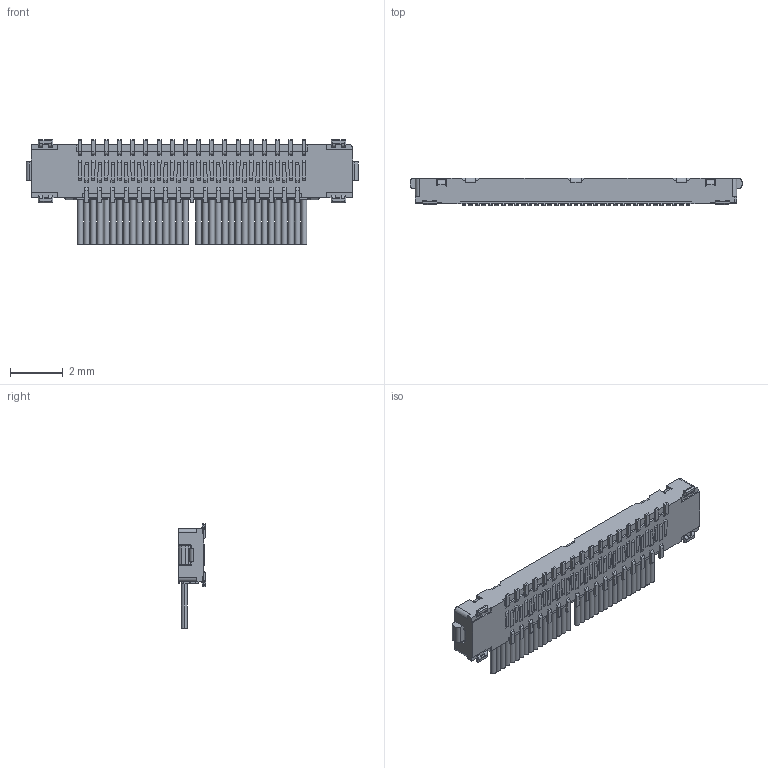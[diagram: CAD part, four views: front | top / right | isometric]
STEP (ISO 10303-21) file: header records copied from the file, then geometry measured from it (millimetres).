
FILE_DESCRIPTION (( 'STEP AP203' ), '1' );
FILE_NAME ('20531-034T-02-1+20533-034E CABLINE-UX II MATING ASSEMBLY_STEP_R4R1R7_ALL.STEP', '2025-12-25T04:58:25', ( '' ), ( '' ), 'SwSTEP 2.0', 'SolidWorks 2023', '' );
FILE_SCHEMA (( 'CONFIG_CONTROL_DESIGN' ));
Length unit declared in the file: millimetre
Products named in the file (1): 20531-034T-02-1+20533-034E CABLINE-UX II MATING ASSEMBLY_STEP_R4R1R7_ALL
Bounding box: 12.6 x 1.04 x 3.98 mm (x, y, z)
Volume: 25.7 mm3; surface area: 151.2 mm2
Topology: 1 solids, 1 shells, 1293 faces, 3455 edges, 2204 vertices
Faces by surface type: plane 995, cylinder 290, cone 8
Entity records: 39740 total; most frequent: CARTESIAN_POINT 7107, ORIENTED_EDGE 6894, DIRECTION 6585, EDGE_CURVE 3447, LINE 2813, VECTOR 2813, VERTEX_POINT 2204, AXIS2_PLACEMENT_3D 1886
